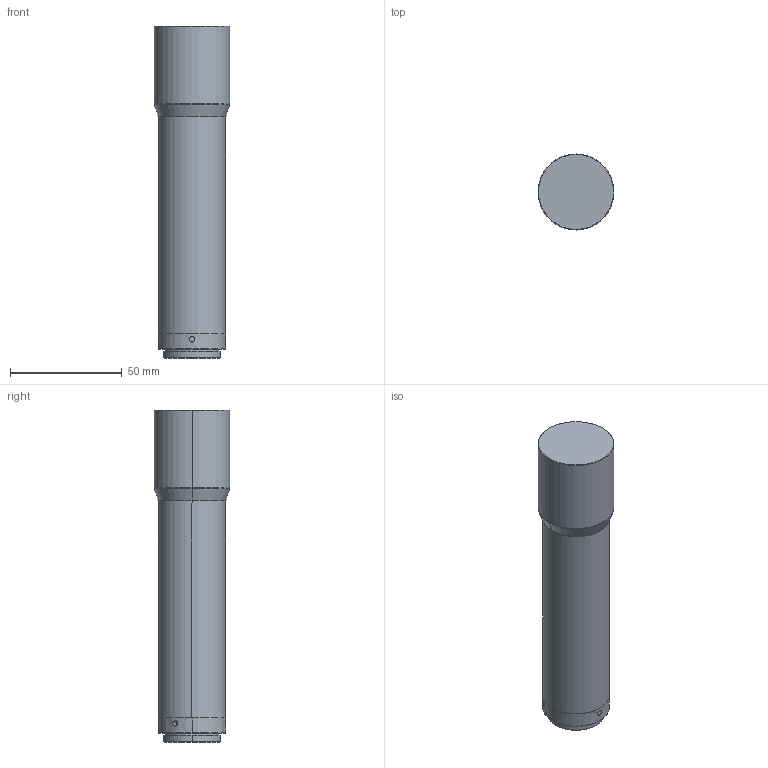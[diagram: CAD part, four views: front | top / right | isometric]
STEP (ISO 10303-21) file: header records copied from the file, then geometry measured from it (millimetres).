
FILE_DESCRIPTION (( 'STEP AP214' ), '1' );
FILE_NAME ('WK10-221-111.STEP', '2024-05-07T09:03:01', ( '' ), ( '' ), 'SwSTEP 2.0', 'SolidWorks 2017', '' );
FILE_SCHEMA (( 'AUTOMOTIVE_DESIGN' ));
Length unit declared in the file: millimetre
Products named in the file (1): WK10-221-111
Bounding box: 34 x 34 x 148.62 mm (x, y, z)
Volume: 111773.4 mm3; surface area: 16328 mm2
Topology: 1 solids, 2 shells, 44 faces, 86 edges, 52 vertices
Faces by surface type: cylinder 23, cone 10, plane 7, torus 4
Entity records: 1789 total; most frequent: CARTESIAN_POINT 405, DIRECTION 208, ORIENTED_EDGE 172, AXIS2_PLACEMENT_3D 89, EDGE_CURVE 86, VERTEX_POINT 52, EDGE_LOOP 52, FACE_OUTER_BOUND 44
